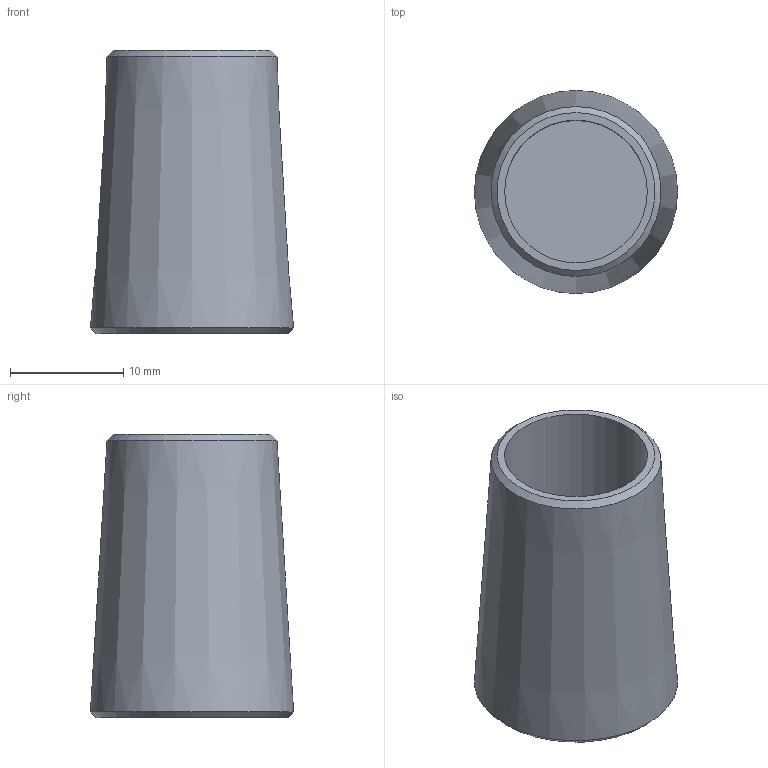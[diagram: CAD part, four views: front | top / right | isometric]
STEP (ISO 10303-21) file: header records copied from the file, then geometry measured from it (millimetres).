
FILE_DESCRIPTION(/* description */ (''),/* implementation_level */ '2;1');
FILE_NAME(/* name */ 'C:\Vault_WS\Designs\SB\01-PX\Verzinkt\ZSS\520 - Kontermutter\520-012-KMU.stp',/* time_stamp */ '2020-06-18T12:22:30+02:00',/* author */ ('schwarz'),/* organization */ (''),/* preprocessor_version */ 'ST-DEVELOPER v16.1',/* originating_system */ 'Autodesk Inventor 2016',/* authorisation */ '');
FILE_SCHEMA (('AUTOMOTIVE_DESIGN { 1 0 10303 214 3 1 1 }'));
Length unit declared in the file: millimetre
Products named in the file (1): Kontermutter 520 012 Kunde
Bounding box: 17.94 x 17.94 x 25 mm (x, y, z)
Volume: 2960.3 mm3; surface area: 2446.8 mm2
Topology: 1 solids, 1 shells, 7 faces, 10 edges, 6 vertices
Faces by surface type: cone 3, plane 3, cylinder 1
Full cylindrical faces by diameter (mm): 12.6 x1
Entity records: 158 total; most frequent: DIRECTION 28, CARTESIAN_POINT 20, AXIS2_PLACEMENT_3D 14, EDGE_LOOP 12, ORIENTED_EDGE 12, FACE_OUTER_BOUND 7, ADVANCED_FACE 7, CIRCLE 6
